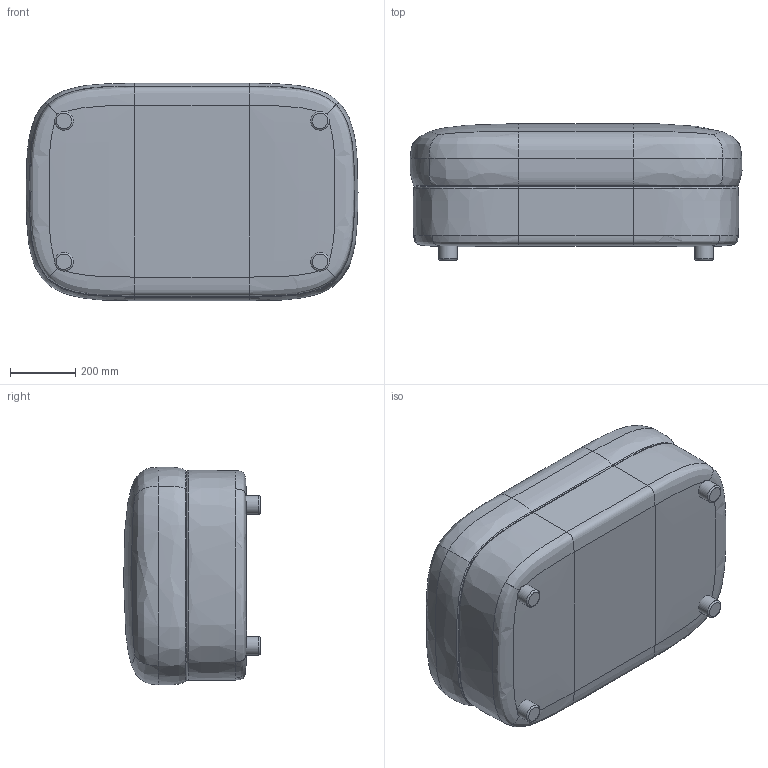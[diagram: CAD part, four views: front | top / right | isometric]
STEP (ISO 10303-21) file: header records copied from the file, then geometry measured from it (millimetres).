
FILE_DESCRIPTION(/* description */ (''),/* implementation_level */ '2;1');
FILE_NAME(/* name */ 'Covent Pouf, Small, 65x100',/* time_stamp */ '2024-07-02T15:57:08+02:00',/* author */ (''),/* organization */ (''),/* preprocessor_version */ 'ST-DEVELOPER v16.5',/* originating_system */ 'Rhino 7.37',/* authorisation */ '');
FILE_SCHEMA (('CONFIG_CONTROL_DESIGN'));
Length unit declared in the file: millimetre
Products named in the file (1): Document
Bounding box: 1015.62 x 417.99 x 665.21 mm (x, y, z)
Volume: 156708993.6 mm3; surface area: 3816708.3 mm2
Topology: 10 solids, 10 shells, 94 faces, 172 edges, 98 vertices
Faces by surface type: bspline 56, plane 26, cylinder 12
Full cylindrical faces by diameter (mm): 57 x4
Entity records: 42925 total; most frequent: CARTESIAN_POINT 41656, ORIENTED_EDGE 344, EDGE_CURVE 172, B_SPLINE_CURVE_WITH_KNOTS 112, VERTEX_POINT 98, ADVANCED_FACE 94, FACE_OUTER_BOUND 94, EDGE_LOOP 94
